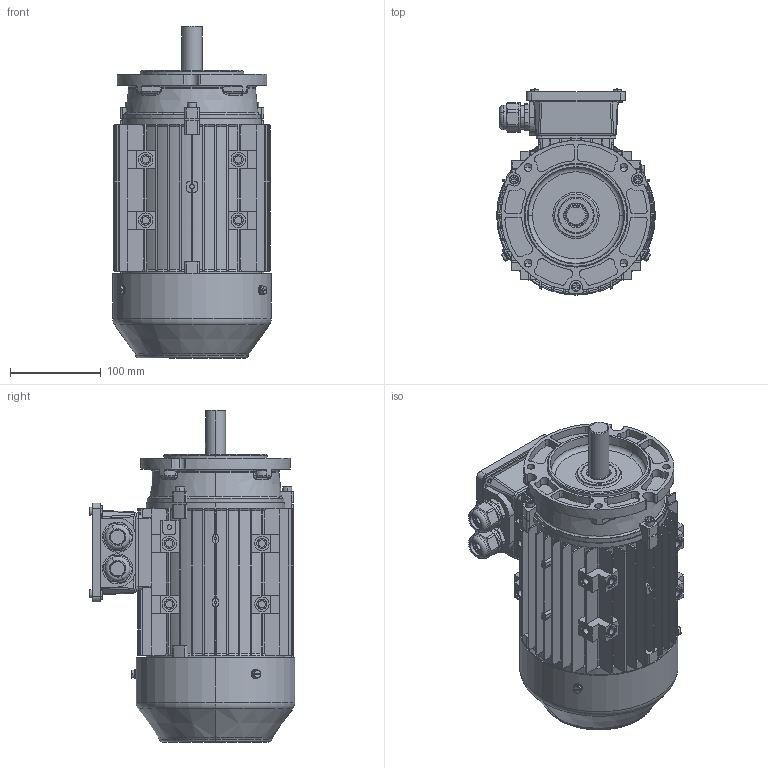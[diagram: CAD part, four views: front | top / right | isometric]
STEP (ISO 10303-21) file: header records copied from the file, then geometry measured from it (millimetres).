
FILE_DESCRIPTION (( 'STEP AP203' ), '1' );
FILE_NAME ('JLN3-145TC.STEP', '2021-03-05T01:02:19', ( 'Windows 用户' ), ( '微软中国' ), 'SwSTEP 2.0', 'SolidWorks 2016', '' );
FILE_SCHEMA (( 'CONFIG_CONTROL_DESIGN' ));
Length unit declared in the file: millimetre
Products named in the file (7): JLN3-145TC; JL-90-100諉盄碟; 蹟譫蹟杶囀ㄗM25ㄘ; 蹟譫蹟杶俋ㄗM25ㄘ; 蹟譫蹟杶砎蝶ㄗM25); 蹟譫蹟杶ㄗM25ㄘ
Assembly tree (7 placements, depth 3):
  JLN3-145TC
    JLN3-145TC
    JL-90-100諉盄碟
    蹟譫蹟杶ㄗM25ㄘ  x2
      蹟譫蹟杶囀ㄗM25ㄘ
      蹟譫蹟杶俋ㄗM25ㄘ
      蹟譫蹟杶砎蝶ㄗM25)
Bounding box: 175 x 226.92 x 365.93 mm (x, y, z)
Volume: 1326501.3 mm3; surface area: 810966.5 mm2
Topology: 23 solids, 26 shells, 3462 faces, 9290 edges, 5941 vertices
Faces by surface type: plane 1507, cylinder 1186, cone 412, torus 269, bspline 88
Entity records: 112435 total; most frequent: CARTESIAN_POINT 30263, ORIENTED_EDGE 17400, DIRECTION 16986, EDGE_CURVE 8700, AXIS2_PLACEMENT_3D 6359, VERTEX_POINT 5603, VECTOR 4268, LINE 4268
